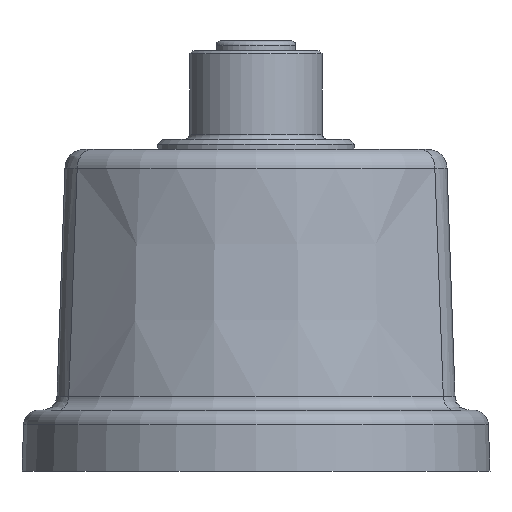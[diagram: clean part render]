
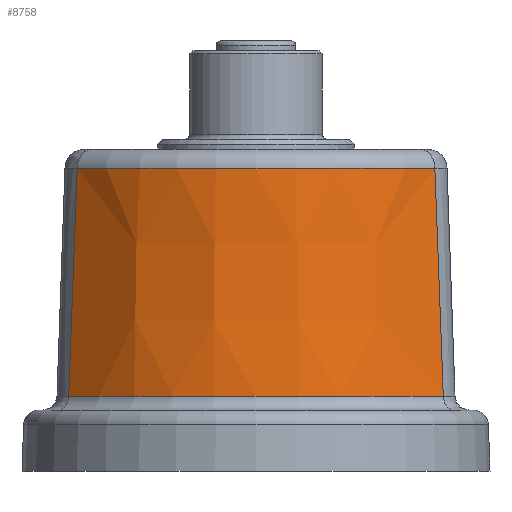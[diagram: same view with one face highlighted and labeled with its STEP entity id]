
A CAD part, front view. The second image highlights one B-rep face of the part: STEP entity #8758.
In plain terms, the highlighted conical face has half-angle 2 degrees and reference radius 25 mm.
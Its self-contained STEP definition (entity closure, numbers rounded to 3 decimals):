
#98=B_SPLINE_CURVE_WITH_KNOTS('',3,(#15051,#15052,#15053,#15054),
 .UNSPECIFIED.,.F.,.F.,(4,4),(-29.59,-6.452),
 .UNSPECIFIED.);
#103=B_SPLINE_CURVE_WITH_KNOTS('',3,(#15243,#15244,#15245,#15246),
 .UNSPECIFIED.,.F.,.F.,(4,4),(6.452,29.59),
 .UNSPECIFIED.);
#915=CONICAL_SURFACE('',#9831,25.,2.);
#1591=FACE_OUTER_BOUND('',#2167,.T.);
#2167=EDGE_LOOP('',(#6934,#6935,#6936,#6937));
#3046=CIRCLE('',#9803,24.949);
#3059=CIRCLE('',#9821,24.142);
#3768=VERTEX_POINT('',#15000);
#3769=VERTEX_POINT('',#15023);
#3771=VERTEX_POINT('',#15049);
#3781=VERTEX_POINT('',#15149);
#4846=EDGE_CURVE('',#3769,#3768,#3046,.T.);
#4849=EDGE_CURVE('',#3771,#3769,#98,.T.);
#4866=EDGE_CURVE('',#3781,#3771,#3059,.T.);
#4877=EDGE_CURVE('',#3768,#3781,#103,.T.);
#6934=ORIENTED_EDGE('',*,*,#4846,.F.);
#6935=ORIENTED_EDGE('',*,*,#4849,.F.);
#6936=ORIENTED_EDGE('',*,*,#4866,.F.);
#6937=ORIENTED_EDGE('',*,*,#4877,.F.);
#8758=ADVANCED_FACE('',(#1591),#915,.T.);
#9803=AXIS2_PLACEMENT_3D('',#15027,#12019,#12020);
#9821=AXIS2_PLACEMENT_3D('',#15151,#12057,#12058);
#9831=AXIS2_PLACEMENT_3D('',#15251,#12079,#12080);
#12019=DIRECTION('center_axis',(0.,0.,-1.));
#12020=DIRECTION('ref_axis',(0.,-1.,0.));
#12057=DIRECTION('center_axis',(0.,0.,1.));
#12058=DIRECTION('ref_axis',(0.,-1.,0.));
#12079=DIRECTION('center_axis',(0.,0.,-1.));
#12080=DIRECTION('ref_axis',(1.,0.,0.));
#15000=CARTESIAN_POINT('',(-19.01,-39.279,-8.717));
#15023=CARTESIAN_POINT('',(19.01,-39.279,-8.717));
#15027=CARTESIAN_POINT('Origin',(0.,-23.12,-8.717));
#15049=CARTESIAN_POINT('',(18.152,-39.036,14.406));
#15051=CARTESIAN_POINT('Ctrl Pts',(18.152,-39.036,14.406));
#15052=CARTESIAN_POINT('Ctrl Pts',(18.439,-39.118,6.698));
#15053=CARTESIAN_POINT('Ctrl Pts',(18.725,-39.199,-1.009));
#15054=CARTESIAN_POINT('Ctrl Pts',(19.01,-39.279,-8.717));
#15149=CARTESIAN_POINT('',(-18.152,-39.036,14.406));
#15151=CARTESIAN_POINT('Origin',(0.,-23.12,14.406));
#15243=CARTESIAN_POINT('Ctrl Pts',(-19.01,-39.279,-8.717));
#15244=CARTESIAN_POINT('Ctrl Pts',(-18.725,-39.199,
-1.009));
#15245=CARTESIAN_POINT('Ctrl Pts',(-18.439,-39.118,6.698));
#15246=CARTESIAN_POINT('Ctrl Pts',(-18.152,-39.036,
14.406));
#15251=CARTESIAN_POINT('Origin',(0.,-23.12,-10.164));
